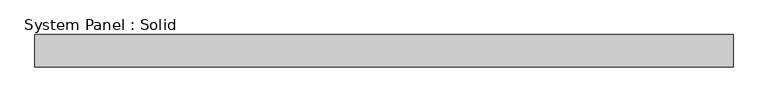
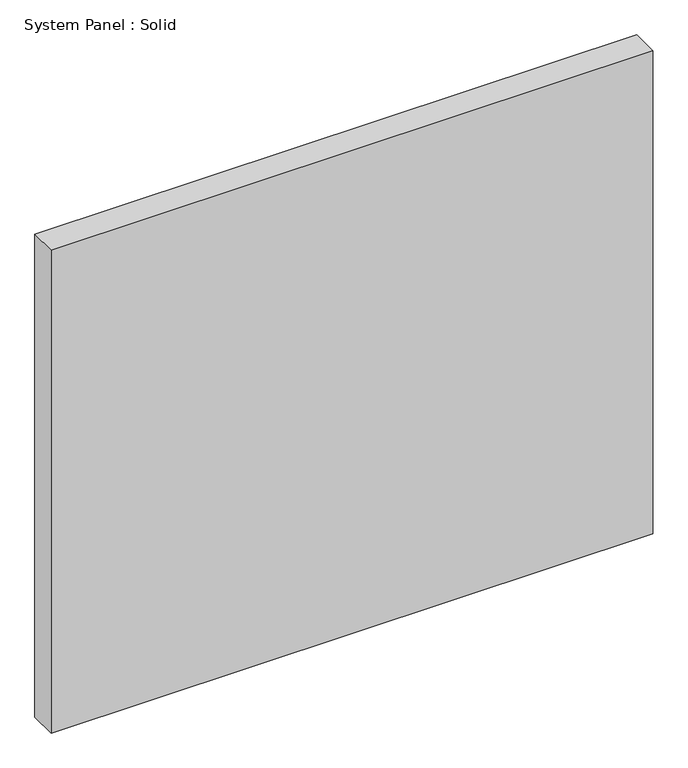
"""IFC4 building model written with IfcOpenShell, lengths in millimetres: plate geometry, System Panel : Solid."""

from ifc_helpers import new_model, si_unit, origin, origin_with_axes, place, context, project, spatial, polyline, outline, extrude, source, transform, mapped, element, save


def system_panel_solid_8dfd6666(model_context):
    return source(origin(), model_context, "Body", "SweptSolid", [
        extrude(outline(polyline([(681.2988156, -19.05), (-681.2988156, -19.05), (-681.2988156, 44.45), (681.2988156, 44.45), (681.2988156, -19.05)])), origin_with_axes(), (0.0, 0.0, 1.0), 1155.7),
    ])


if __name__ == "__main__":
    model = new_model("IFC4")
    model_context = context("Model", 3, world=origin())
    ifc_project = project(units=[si_unit("LENGTHUNIT", "METRE", prefix="MILLI")], contexts=[model_context])
    site = spatial("IfcSite", under=ifc_project)
    building = spatial("IfcBuilding", under=site)
    placement = place(None, origin())
    system_panel_solid_shape = system_panel_solid_8dfd6666(model_context)
    element("IfcPlate", 1, ObjectType="System Panel : Solid", at=placement, inside=building, context=model_context, shape_type="MappedRepresentation", body=[
        mapped(system_panel_solid_shape, transform((0.0, 0.0, 0.0), x_axis=(1.0, 0.0, 0.0), y_axis=(0.0, 1.0, 0.0), z_axis=(0.0, 0.0, 1.0))),
    ])
    save(model, "model.ifc")
